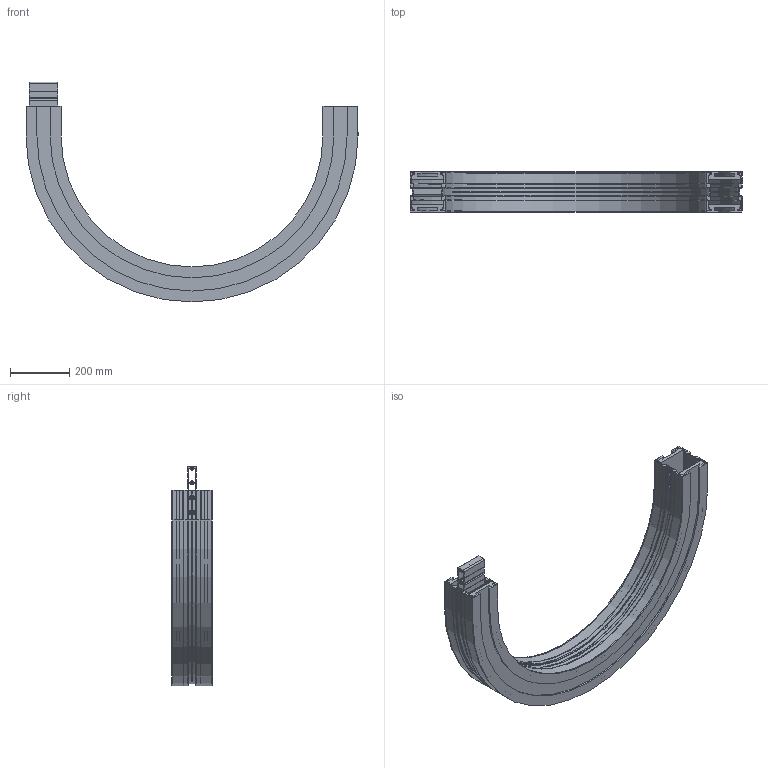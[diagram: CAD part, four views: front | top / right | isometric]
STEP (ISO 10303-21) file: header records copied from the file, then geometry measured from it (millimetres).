
FILE_DESCRIPTION (( 'STEP AP203' ), '1' );
FILE_NAME ('R3C500-180.STEP', '2009-01-13T08:22:35', ( 'faber' ), ( '' ), 'SwSTEP 2.0', 'SolidWorks 2008', '' );
FILE_SCHEMA (( 'CONFIG_CONTROL_DESIGN' ));
Length unit declared in the file: millimetre
Products named in the file (1): R3C500-180
Bounding box: 1118 x 136 x 740.75 mm (x, y, z)
Surface area: 2050176.4 mm2 (no closed solid volume)
Topology: 0 solids, 9 shells, 386 faces, 1527 edges, 1084 vertices
Faces by surface type: plane 171, cylinder 169, cone 28, torus 18
Entity records: 15974 total; most frequent: CARTESIAN_POINT 3094, DIRECTION 2801, ORIENTED_EDGE 2382, EDGE_CURVE 1527, VERTEX_POINT 1084, VECTOR 963, LINE 963, AXIS2_PLACEMENT_3D 919
